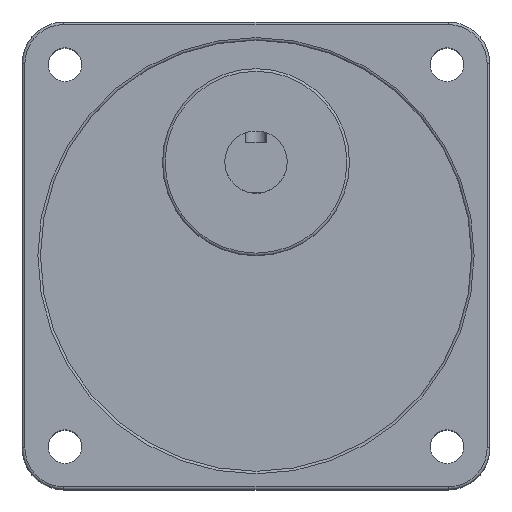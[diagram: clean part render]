
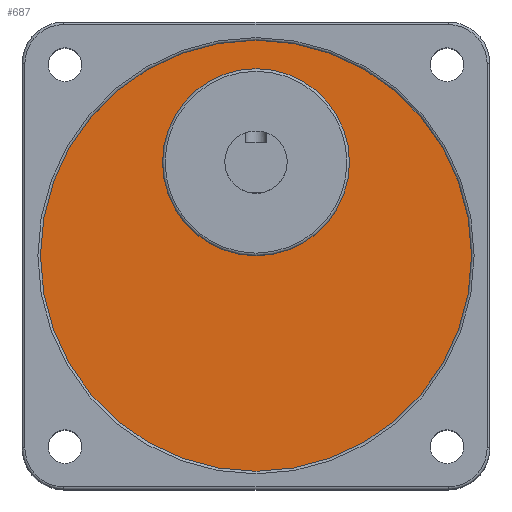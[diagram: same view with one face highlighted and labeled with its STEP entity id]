
A CAD part, top view. The second image highlights one B-rep face of the part: STEP entity #687.
In plain terms, the highlighted planar face has unit normal (0, 0, 1).
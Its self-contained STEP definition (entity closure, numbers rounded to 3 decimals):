
#621=CARTESIAN_POINT('',(18.0,18.,59.5));
#622=VERTEX_POINT('',#621);
#623=CARTESIAN_POINT('',(0.0,18.0,59.5));
#624=DIRECTION('',(0.0,0.0,1.0));
#625=DIRECTION('',(-1.0,0.0,0.0));
#626=AXIS2_PLACEMENT_3D('',#623,#624,#625);
#627=CIRCLE('',#626,18.0);
#628=EDGE_CURVE('',#622,#622,#627,.T.);
#661=CARTESIAN_POINT('',(41.5,0.,59.5));
#662=VERTEX_POINT('',#661);
#663=CARTESIAN_POINT('',(0.0,0.0,59.5));
#664=DIRECTION('',(0.0,0.0,1.0));
#665=DIRECTION('',(-1.0,0.0,0.0));
#666=AXIS2_PLACEMENT_3D('',#663,#664,#665);
#667=CIRCLE('',#666,41.5);
#668=EDGE_CURVE('',#662,#662,#667,.T.);
#676=CARTESIAN_POINT('',(0.0,0.0,59.5));
#677=DIRECTION('',(0.0,0.0,-1.0));
#678=DIRECTION('',(-1.0,0.0,0.0));
#679=AXIS2_PLACEMENT_3D('',#676,#677,#678);
#680=PLANE('',#679);
#681=ORIENTED_EDGE('',*,*,#668,.T.);
#682=EDGE_LOOP('',(#681));
#683=FACE_OUTER_BOUND('',#682,.T.);
#684=ORIENTED_EDGE('',*,*,#628,.F.);
#685=EDGE_LOOP('',(#684));
#686=FACE_BOUND('',#685,.T.);
#687=ADVANCED_FACE('',(#683,#686),#680,.F.);
